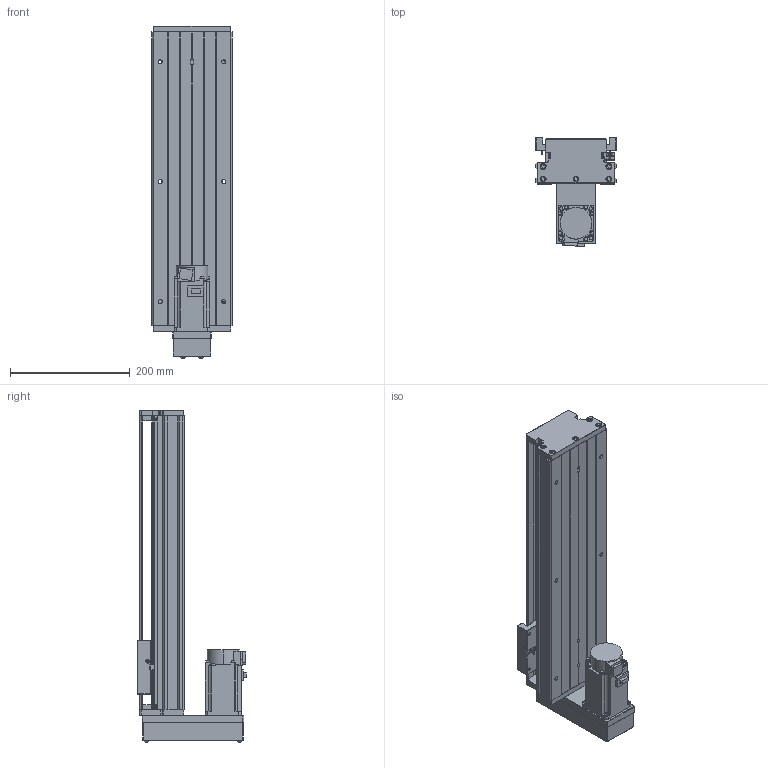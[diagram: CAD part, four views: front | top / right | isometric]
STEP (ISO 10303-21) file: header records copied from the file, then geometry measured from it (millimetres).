
FILE_DESCRIPTION (( 'STEP AP203' ), '1' );
FILE_NAME ('KTH130-350-BM-M40-C4.step', '2023-06-30T04:04:17', ( '微软用户' ), ( '微软中国' ), 'SwSTEP 2.0', 'SolidWorks 2020', '' );
FILE_SCHEMA (( 'CONFIG_CONTROL_DESIGN' ));
Length unit declared in the file: millimetre
Products named in the file (19): GBT 70.2-M4¡Á35_M4¡Á35; GTH14-001_350; CTHA60-017; CTHA60-016; GTH14-015-2_CTHA86-015-2; KTH130-002_KTH130-002; EE_SX911P_R; GBT 70.1-M3℅5; GTH14-033; KTH130-004; GBT77-2000 M3×3; KTH130-350-BM-M40-C4; KTH130-005; す晦芛蹟隊 M3℅5; GB1155-6X6; GBT 70.3-M3℅8; GBT70.1 M5℅16; HG-KN43J-S100; GBT 70.2-M3¡Á5_M3¡Á6
Assembly tree (53 placements, depth 2):
  KTH130-350-BM-M40-C4
    GTH14-001_350
    KTH130-002_KTH130-002
    KTH130-004
    KTH130-005
    GB1155-6X6  x2
    GBT70.1 M5℅16  x10
    GBT 70.2-M3¡Á5_M3¡Á6  x4
    CTHA60-017  x3
    EE_SX911P_R  x3
    CTHA60-016  x2
    GBT 70.1-M3℅5  x6
    GBT77-2000 M3×3  x6
    す晦芛蹟隊 M3℅5  x2
    GBT 70.3-M3℅8  x4
    HG-KN43J-S100
    GBT 70.2-M4¡Á35_M4¡Á35  x4
    GTH14-015-2_CTHA86-015-2
    GTH14-033
Bounding box: 135 x 181.8 x 554.2 mm (x, y, z)
Volume: 3364981.5 mm3; surface area: 584694.4 mm2
Topology: 56 solids, 56 shells, 2203 faces, 5318 edges, 3310 vertices
Faces by surface type: plane 1193, cylinder 596, cone 290, torus 100, sphere 24
Entity records: 39942 total; most frequent: CARTESIAN_POINT 8534, DIRECTION 5919, ORIENTED_EDGE 5836, EDGE_CURVE 2918, AXIS2_PLACEMENT_3D 2026, VECTOR 1867, LINE 1867, VERTEX_POINT 1863
